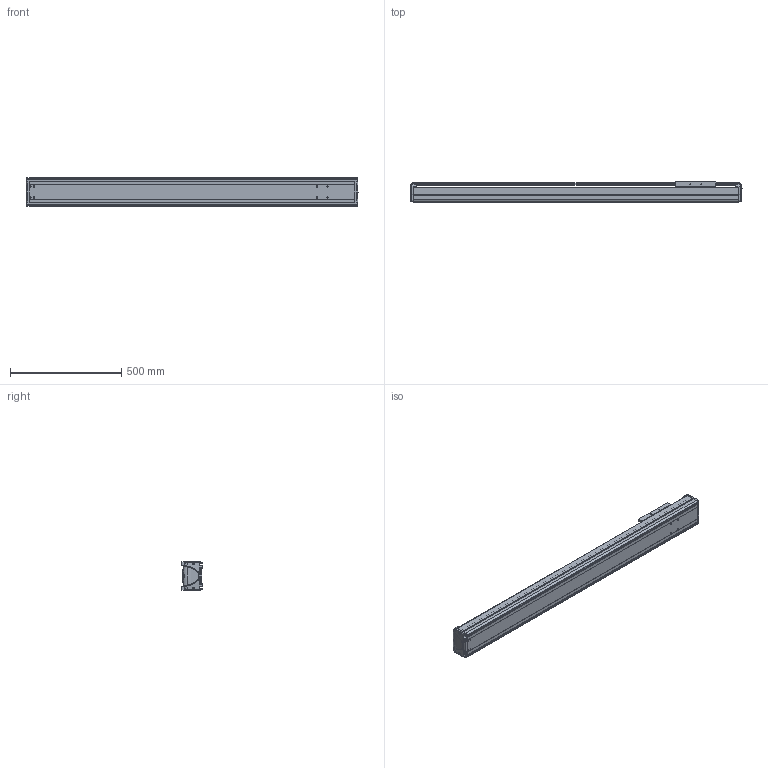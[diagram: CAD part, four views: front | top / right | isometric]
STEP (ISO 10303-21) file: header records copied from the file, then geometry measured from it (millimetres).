
FILE_DESCRIPTION((''),'2;1');
FILE_NAME('BE30E-ST-L_N-B5_IGS_PRT','2017-06-17T',(' '),(''),'PRO/ENGINEER BY PARAMETRIC TECHNOLOGY CORPORATION, 2015030','PRO/ENGINEER BY PARAMETRIC TECHNOLOGY CORPORATION, 2015030','');
FILE_SCHEMA(('CONFIG_CONTROL_DESIGN'));
Length unit declared in the file: millimetre
Products named in the file (1): BE30E-ST-L_N-B5_IGS_PRT
Bounding box: 1490 x 89.8 x 130 mm (x, y, z)
Volume: 4564568.7 mm3; surface area: 1777554.4 mm2
Topology: 3 solids, 100 shells, 1432 faces, 3876 edges, 2539 vertices
Faces by surface type: cylinder 675, plane 606, bspline 55, torus 42, cone 30, sphere 24
Entity records: 48309 total; most frequent: CARTESIAN_POINT 12075, DIRECTION 7487, ORIENTED_EDGE 7326, EDGE_CURVE 3856, AXIS2_PLACEMENT_3D 2730, VERTEX_POINT 2539, VECTOR 2027, LINE 2027
